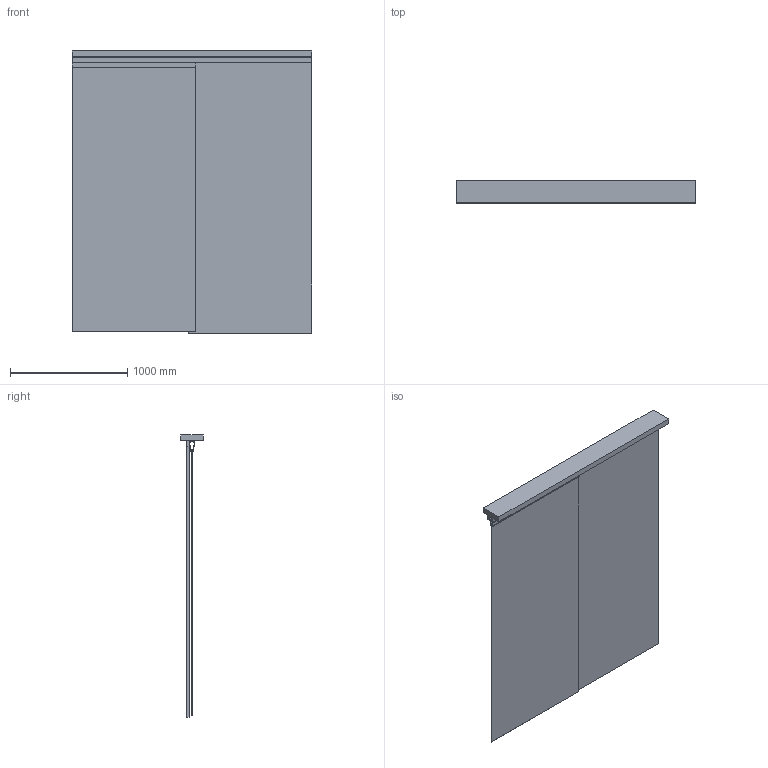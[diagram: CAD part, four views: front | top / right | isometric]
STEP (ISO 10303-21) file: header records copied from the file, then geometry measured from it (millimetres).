
FILE_DESCRIPTION(('STEP AP242'),'1');
FILE_NAME('OPO_56.047.51_volu_3d.stp','2026-02-23T17:26:25',(' '),(' '),'Spatial InterOp 3D',' ',' ');
FILE_SCHEMA(('AP242_MANAGED_MODEL_BASED_3D_ENGINEERING_MIM_LF {1 0 10303 442 1 1 4}'));
Length unit declared in the file: millimetre
Products named in the file (1): 1
Bounding box: 2050 x 188 x 2410 mm (x, y, z)
Volume: 87835833.5 mm3; surface area: 12082541.9 mm2
Topology: 6 solids, 6 shells, 264 faces, 714 edges, 474 vertices
Faces by surface type: plane 204, cylinder 60
Entity records: 10378 total; most frequent: CARTESIAN_POINT 1458, ORIENTED_EDGE 1428, DIRECTION 1374, EDGE_CURVE 714, LINE 594, VECTOR 594, VERTEX_POINT 474, AXIS2_PLACEMENT_3D 390
